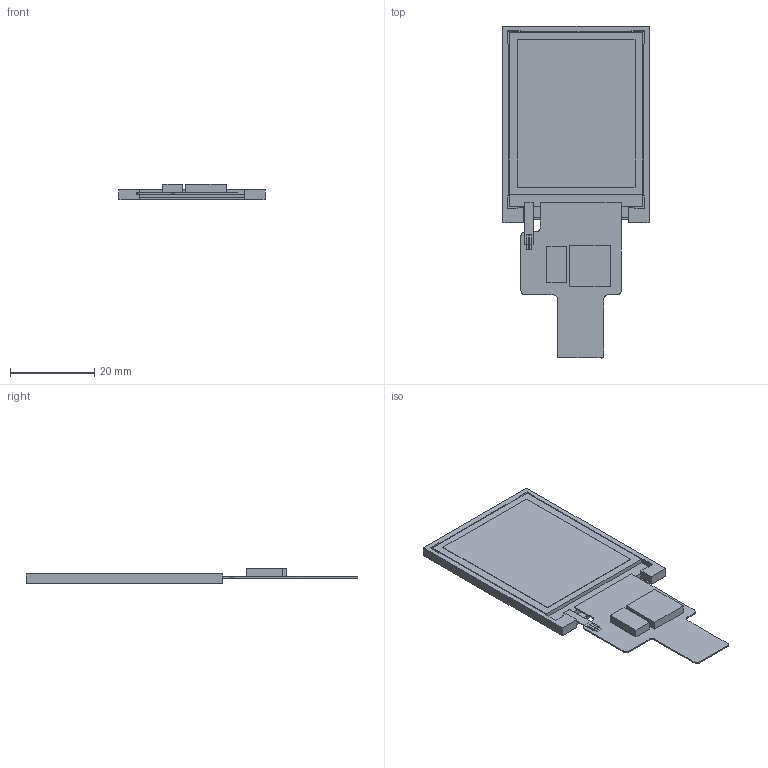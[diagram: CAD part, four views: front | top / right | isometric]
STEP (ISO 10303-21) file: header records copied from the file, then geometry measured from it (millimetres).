
FILE_DESCRIPTION(/* description */ (''),/* implementation_level */ '2;1');
FILE_NAME(/* name */ '',/* time_stamp */ '2024-01-03T15:34:34+08:00',/* author */ (''),/* organization */ (''),/* preprocessor_version */ 'ST-DEVELOPER v11',/* originating_system */ 'SIEMENS PLM Software NX 7.5',/* authorisation */ '');
FILE_SCHEMA (('AP203_CONFIGURATION_CONTROLLED_3D_DESIGN_OF_MECHANICAL_PARTS_AND_ASSEMBLIES_MIM_LF'));
Length unit declared in the file: millimetre
Products named in the file (1): SDWn018T63N_stp
Bounding box: 34.7 x 78.88 x 3.6 mm (x, y, z)
Volume: 3926.1 mm3; surface area: 10601.7 mm2
Topology: 19 solids, 19 shells, 147 faces, 329 edges, 220 vertices
Faces by surface type: plane 143, extrusion 2, cylinder 2
Entity records: 4485 total; most frequent: CARTESIAN_POINT 1300, ORIENTED_EDGE 658, DIRECTION 475, EDGE_CURVE 329, VERTEX_POINT 220, VECTOR 175, LINE 173, AXIS2_PLACEMENT_3D 150
